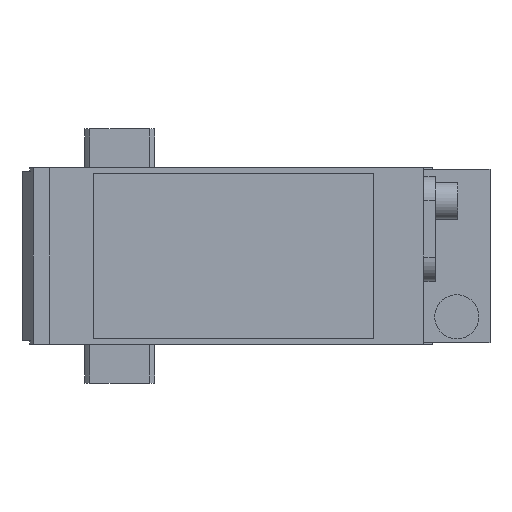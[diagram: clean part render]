
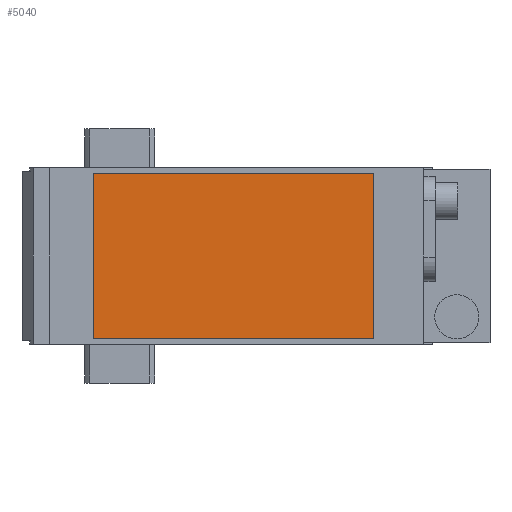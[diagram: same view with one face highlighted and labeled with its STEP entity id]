
A CAD part, front view. The second image highlights one B-rep face of the part: STEP entity #5040.
In plain terms, the highlighted planar face has unit normal (0, -1, 0).
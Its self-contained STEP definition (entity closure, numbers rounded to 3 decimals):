
#5 = EDGE_CURVE ( 'NONE', #4493, #8965, #9392, .T. ) ;
#226 = VECTOR ( 'NONE', #4496, 1000. ) ;
#792 = EDGE_LOOP ( 'NONE', ( #1712, #1486, #9088, #2345 ) ) ;
#1180 = LINE ( 'NONE', #6713, #8583 ) ;
#1486 = ORIENTED_EDGE ( 'NONE', *, *, #2246, .T. ) ;
#1712 = ORIENTED_EDGE ( 'NONE', *, *, #2669, .T. ) ;
#1924 = CARTESIAN_POINT ( 'NONE',  ( 0., -280.5, 0. ) ) ;
#2246 = EDGE_CURVE ( 'NONE', #7185, #4493, #1180, .T. ) ;
#2345 = ORIENTED_EDGE ( 'NONE', *, *, #7383, .T. ) ;
#2601 = DIRECTION ( 'NONE',  ( 1., 0., 0. ) ) ;
#2669 = EDGE_CURVE ( 'NONE', #3707, #7185, #10052, .T. ) ;
#2953 = CARTESIAN_POINT ( 'NONE',  ( -7., -280.5, 22.5 ) ) ;
#2966 = CARTESIAN_POINT ( 'NONE',  ( -7., -280.5, -22.5 ) ) ;
#2967 = CARTESIAN_POINT ( 'NONE',  ( 69., -280.5, -22.5 ) ) ;
#3548 = DIRECTION ( 'NONE',  ( 0., 0., -1. ) ) ;
#3707 = VERTEX_POINT ( 'NONE', #9777 ) ;
#4493 = VERTEX_POINT ( 'NONE', #2967 ) ;
#4496 = DIRECTION ( 'NONE',  ( 0., 0., 1. ) ) ;
#5040 = ADVANCED_FACE ( 'NONE', ( #5181 ), #5131, .T. ) ;
#5131 = PLANE ( 'NONE',  #9747 ) ;
#5181 = FACE_OUTER_BOUND ( 'NONE', #792, .T. ) ;
#5281 = DIRECTION ( 'NONE',  ( 0., 0., -1. ) ) ;
#5429 = VECTOR ( 'NONE', #9346, 1000. ) ;
#6160 = LINE ( 'NONE', #2953, #5429 ) ;
#6713 = CARTESIAN_POINT ( 'NONE',  ( -7., -280.5, -22.5 ) ) ;
#6752 = CARTESIAN_POINT ( 'NONE',  ( 69., -280.5, 22.5 ) ) ;
#7185 = VERTEX_POINT ( 'NONE', #2966 ) ;
#7383 = EDGE_CURVE ( 'NONE', #8965, #3707, #6160, .T. ) ;
#8421 = DIRECTION ( 'NONE',  ( 0., -1., 0. ) ) ;
#8583 = VECTOR ( 'NONE', #2601, 1000. ) ;
#8965 = VERTEX_POINT ( 'NONE', #10375 ) ;
#9088 = ORIENTED_EDGE ( 'NONE', *, *, #5, .T. ) ;
#9160 = VECTOR ( 'NONE', #3548, 1000. ) ;
#9294 = CARTESIAN_POINT ( 'NONE',  ( -7., -280.5, 22.5 ) ) ;
#9346 = DIRECTION ( 'NONE',  ( -1., 0., 0. ) ) ;
#9392 = LINE ( 'NONE', #6752, #226 ) ;
#9747 = AXIS2_PLACEMENT_3D ( 'NONE', #1924, #8421, #5281 ) ;
#9777 = CARTESIAN_POINT ( 'NONE',  ( -7., -280.5, 22.5 ) ) ;
#10052 = LINE ( 'NONE', #9294, #9160 ) ;
#10375 = CARTESIAN_POINT ( 'NONE',  ( 69., -280.5, 22.5 ) ) ;
